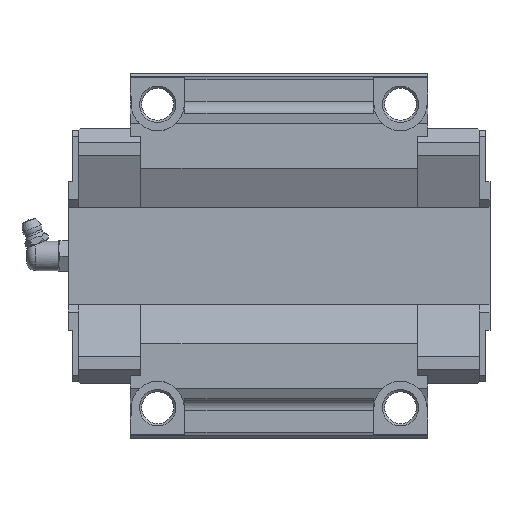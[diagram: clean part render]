
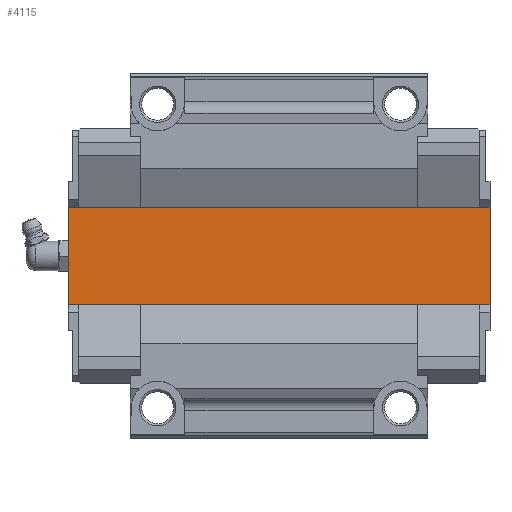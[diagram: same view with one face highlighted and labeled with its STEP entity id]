
A CAD part, front view. The second image highlights one B-rep face of the part: STEP entity #4115.
In plain terms, the highlighted planar face has unit normal (0, -1, 0).
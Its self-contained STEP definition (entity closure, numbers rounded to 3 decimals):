
#1161=ORIENTED_EDGE('',*,*,#1566,.F.);
#1162=ORIENTED_EDGE('',*,*,#1879,.F.);
#1163=ORIENTED_EDGE('',*,*,#1597,.T.);
#1164=ORIENTED_EDGE('',*,*,#1880,.T.);
#1566=EDGE_CURVE('',#2092,#2093,#2527,.T.);
#1597=EDGE_CURVE('',#2121,#2120,#2554,.T.);
#1879=EDGE_CURVE('',#2121,#2092,#2760,.T.);
#1880=EDGE_CURVE('',#2120,#2093,#2761,.T.);
#2092=VERTEX_POINT('',#6012);
#2093=VERTEX_POINT('',#6014);
#2120=VERTEX_POINT('',#6072);
#2121=VERTEX_POINT('',#6074);
#2527=LINE('',#6013,#2965);
#2554=LINE('',#6073,#2992);
#2760=LINE('',#6678,#3198);
#2761=LINE('',#6680,#3199);
#2965=VECTOR('',#4814,1000.);
#2992=VECTOR('',#4851,1000.);
#3198=VECTOR('',#5445,1000.);
#3199=VECTOR('',#5448,1000.);
#3414=EDGE_LOOP('',(#1161,#1162,#1163,#1164));
#3691=FACE_BOUND('',#3414,.T.);
#3910=PLANE('',#4448);
#4115=ADVANCED_FACE('',(#3691),#3910,.T.);
#4448=AXIS2_PLACEMENT_3D('',#6679,#5446,#5447);
#4814=DIRECTION('',(0.,0.,1.));
#4851=DIRECTION('',(0.,0.,1.));
#5445=DIRECTION('',(-1.,0.,0.));
#5446=DIRECTION('',(0.,-1.,0.));
#5447=DIRECTION('',(0.,0.,-1.));
#5448=DIRECTION('',(-1.,0.,0.));
#6012=CARTESIAN_POINT('',(-69.5,28.,-17.001));
#6013=CARTESIAN_POINT('',(-69.5,28.,-17.001));
#6014=CARTESIAN_POINT('',(-69.5,28.,17.001));
#6072=CARTESIAN_POINT('',(69.5,28.,17.001));
#6073=CARTESIAN_POINT('',(69.5,28.,-17.001));
#6074=CARTESIAN_POINT('',(69.5,28.,-17.001));
#6678=CARTESIAN_POINT('',(69.5,28.,-17.001));
#6679=CARTESIAN_POINT('',(69.5,28.,-17.001));
#6680=CARTESIAN_POINT('',(69.5,28.,17.001));
